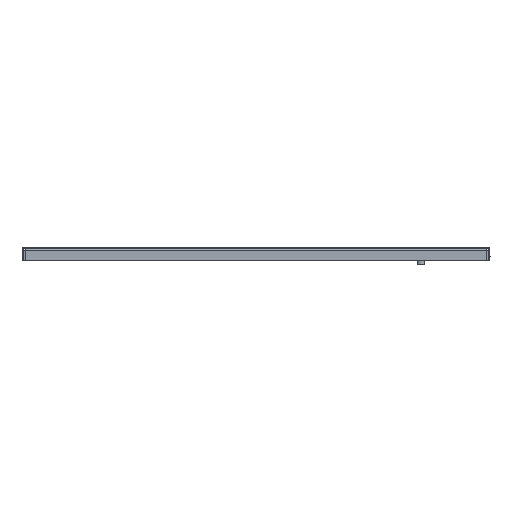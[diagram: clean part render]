
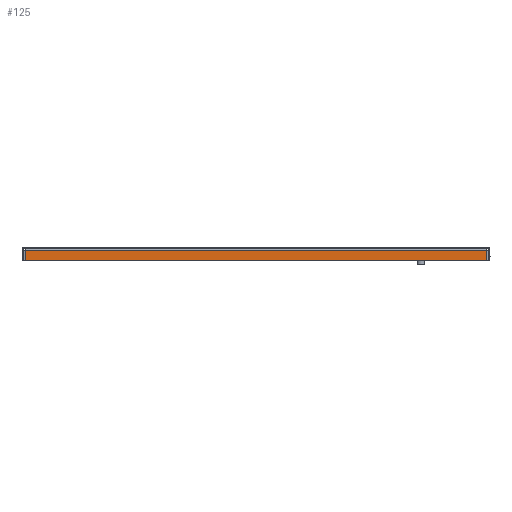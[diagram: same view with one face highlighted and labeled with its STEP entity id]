
A CAD part, left-side view. The second image highlights one B-rep face of the part: STEP entity #125.
In plain terms, the highlighted planar face has unit normal (-1, 0, 0).
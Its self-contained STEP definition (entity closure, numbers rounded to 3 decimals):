
#125=ADVANCED_FACE('',(#3483),#3485,.F.);
#3483=FACE_BOUND('',#3484,.T.);
#3484=EDGE_LOOP('',(#17538,#17539,#17540,#17541));
#3485=PLANE('',#3486);
#3486=AXIS2_PLACEMENT_3D('',#3487,#3488,#3489);
#3487=CARTESIAN_POINT('',(-593.2,0.,0.));
#3488=DIRECTION('',(1.,0.,0.));
#3489=DIRECTION('',(0.,0.,-1.));
#17538=ORIENTED_EDGE('',*,*,#26651,.F.);
#17539=ORIENTED_EDGE('',*,*,#26653,.F.);
#17540=ORIENTED_EDGE('',*,*,#26654,.F.);
#17541=ORIENTED_EDGE('',*,*,#26655,.F.);
#26651=EDGE_CURVE('',#34181,#34174,#34185,.T.);
#26653=EDGE_CURVE('',#34187,#34181,#34188,.T.);
#26654=EDGE_CURVE('',#34189,#34187,#34190,.T.);
#26655=EDGE_CURVE('',#34174,#34189,#34191,.T.);
#34174=VERTEX_POINT('',#47899);
#34181=VERTEX_POINT('',#47919);
#34185=LINE('',#47930,#47931);
#34187=VERTEX_POINT('',#47936);
#34188=LINE('',#47937,#47938);
#34189=VERTEX_POINT('',#47940);
#34190=LINE('',#47941,#47942);
#34191=LINE('',#47944,#47945);
#47899=CARTESIAN_POINT('',(-593.2,-245.3,-3.2));
#47919=CARTESIAN_POINT('',(-593.2,245.3,-3.2));
#47930=CARTESIAN_POINT('',(-593.2,245.3,-3.2));
#47931=VECTOR('',#47932,1.);
#47932=DIRECTION('',(0.,-1.,0.));
#47936=CARTESIAN_POINT('',(-593.2,245.3,-14.));
#47937=CARTESIAN_POINT('',(-593.2,245.3,-14.));
#47938=VECTOR('',#47939,1.);
#47939=DIRECTION('',(0.,0.,1.));
#47940=CARTESIAN_POINT('',(-593.2,-245.3,-14.));
#47941=CARTESIAN_POINT('',(-593.2,-245.3,-14.));
#47942=VECTOR('',#47943,1.);
#47943=DIRECTION('',(0.,1.,0.));
#47944=CARTESIAN_POINT('',(-593.2,-245.3,-3.2));
#47945=VECTOR('',#47946,1.);
#47946=DIRECTION('',(0.,0.,-1.));
